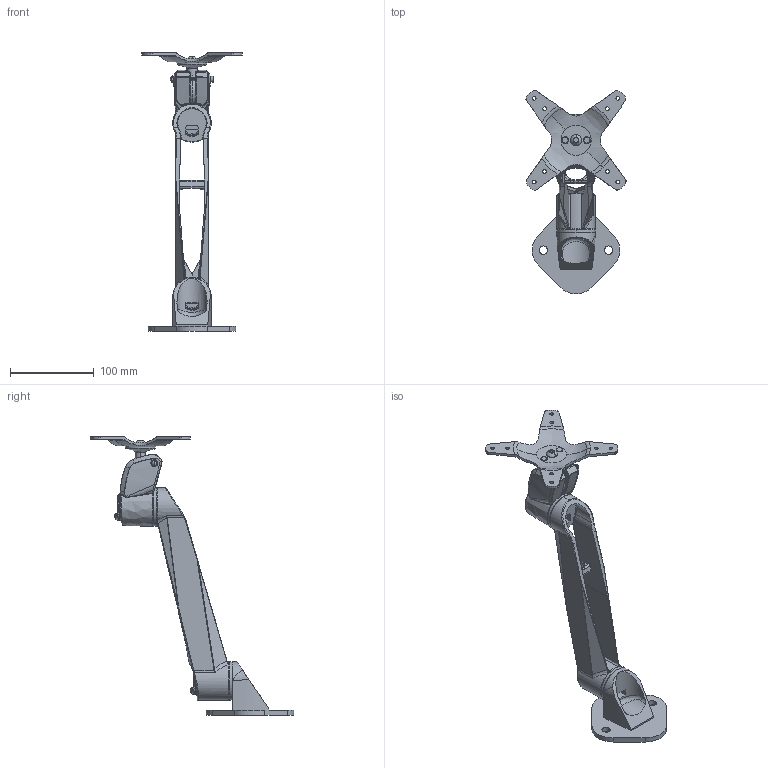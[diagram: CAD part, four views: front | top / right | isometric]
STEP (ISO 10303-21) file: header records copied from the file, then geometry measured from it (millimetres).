
FILE_DESCRIPTION((''),'2;1');
FILE_NAME('EM32103-LAMEX-0418_ASM','2013-04-24T',('B0540'),(''),'PRO/ENGINEER BY PARAMETRIC TECHNOLOGY CORPORATION, 2012360','PRO/ENGINEER BY PARAMETRIC TECHNOLOGY CORPORATION, 2012360','');
FILE_SCHEMA(('CONFIG_CONTROL_DESIGN'));
Products named in the file (24): EM35111-14; EM35111-59; EM35111-54; EM35111-38; EM35111-53; EM35111-07_ASM; EM35111-03_ASM; EM35111-17; EM35111-49-M4X8; EM35111-51; EM35111-11; AM001-_Q____-_Y_Y_____Y_ANY_ASM; EM35111-52; EM35111-36; EM35111-48-M4XW8MM; EM35111-47; EM35111-41; EM35111-46-M4X40MM; EM13011-10; EM13011-18-M8X12; EM35111-02_ASM; EM35114-18; EM_DIMOND; EM32103-LAMEX-0418_ASM
Assembly tree (25 placements, depth 4):
  EM32103-LAMEX-0418_ASM
    EM35111-03_ASM
      EM35111-14
      EM35111-59
      EM35111-07_ASM
        EM35111-54
        EM35111-38
        EM35111-53
    EM35111-02_ASM
      EM35111-17
      EM35111-49-M4X8
      EM35111-51
      AM001-_Q____-_Y_Y_____Y_ANY_ASM
        EM35111-11
      EM35111-59
      EM35111-52
      EM35111-36
      EM35111-48-M4XW8MM
      EM35111-47
      EM35111-41
      EM35111-46-M4X40MM
      EM13011-10
      EM13011-18-M8X12
    EM35111-07_ASM
      EM35111-54
      EM35111-38
      EM35111-53
    EM35114-18
    EM_DIMOND
Bounding box: 119.61 x 242.87 x 333.27 mm (x, y, z)
Volume: 382910.4 mm3; surface area: 222329 mm2
Topology: 24 solids, 41 shells, 3856 faces, 10432 edges, 6706 vertices
Faces by surface type: plane 1696, bspline 937, cylinder 704, torus 227, sphere 146, cone 138, extrusion 7, revolution 1
Entity records: 174663 total; most frequent: CARTESIAN_POINT 92500, ORIENTED_EDGE 18907, DIRECTION 14116, EDGE_CURVE 9537, VERTEX_POINT 6195, AXIS2_PLACEMENT_3D 4782, VECTOR 4551, LINE 4544
